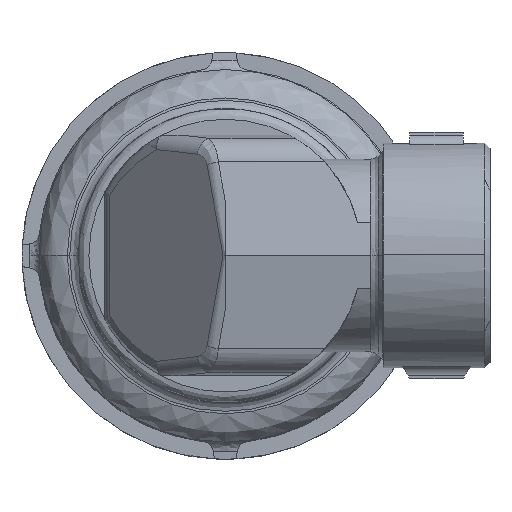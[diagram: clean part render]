
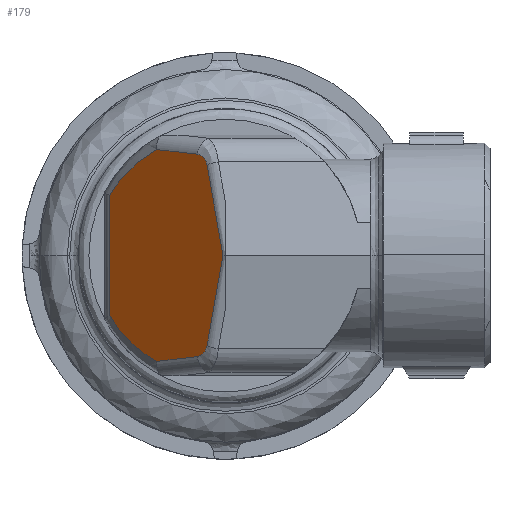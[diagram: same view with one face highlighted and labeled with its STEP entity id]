
A CAD part, top view. The second image highlights one B-rep face of the part: STEP entity #179.
In plain terms, the highlighted planar face has unit normal (-0.707, 0, 0.707).
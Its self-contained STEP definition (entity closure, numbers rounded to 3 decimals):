
#179=ADVANCED_FACE('',(#1642),#1641,.F.);
#1641=PLANE('',#3767);
#1642=FACE_OUTER_BOUND('',#3768,.T.);
#3764=CARTESIAN_POINT('',(1.695,-23.764,149.195));
#3765=DIRECTION('',(0.707,0.,-0.707));
#3766=DIRECTION('',(-0.707,0.,-0.707));
#3767=AXIS2_PLACEMENT_3D('',#3764,#3765,#3766);
#3768=EDGE_LOOP('',(#5210,#5211,#5212,#5213,#5214,#5215,#5216,#5217,#5218));
#5210=ORIENTED_EDGE('',*,*,#5699,.T.);
#5211=ORIENTED_EDGE('',*,*,#5953,.T.);
#5212=ORIENTED_EDGE('',*,*,#5703,.T.);
#5213=ORIENTED_EDGE('',*,*,#5773,.T.);
#5214=ORIENTED_EDGE('',*,*,#5959,.T.);
#5215=ORIENTED_EDGE('',*,*,#5961,.T.);
#5216=ORIENTED_EDGE('',*,*,#5955,.T.);
#5217=ORIENTED_EDGE('',*,*,#5709,.T.);
#5218=ORIENTED_EDGE('',*,*,#5983,.T.);
#5699=EDGE_CURVE('',#6816,#6809,#6817,.T.);
#5703=EDGE_CURVE('',#6843,#6844,#6845,.T.);
#5709=EDGE_CURVE('',#6885,#6878,#6886,.T.);
#5773=EDGE_CURVE('',#6844,#7313,#7320,.T.);
#5953=EDGE_CURVE('',#6809,#6843,#8511,.T.);
#5955=EDGE_CURVE('',#8524,#6885,#8525,.T.);
#5959=EDGE_CURVE('',#7313,#8543,#8550,.T.);
#5961=EDGE_CURVE('',#8543,#8524,#8562,.T.);
#5983=EDGE_CURVE('',#6878,#6816,#8698,.T.);
#6809=VERTEX_POINT('',#10208);
#6816=VERTEX_POINT('',#10221);
#6817=(BOUNDED_CURVE() B_SPLINE_CURVE(2,(#10222,#10223,#10224),.UNSPECIFIED.,.F.,.F.) B_SPLINE_CURVE_WITH_KNOTS((3,3),(-1.076,-0.522),.UNSPECIFIED.) CURVE() GEOMETRIC_REPRESENTATION_ITEM() RATIONAL_B_SPLINE_CURVE((1.,0.962,1.)) REPRESENTATION_ITEM('') );
#6843=VERTEX_POINT('',#10250);
#6844=VERTEX_POINT('',#10251);
#6845=(BOUNDED_CURVE() B_SPLINE_CURVE(2,(#10252,#10253,#10254),.UNSPECIFIED.,.F.,.F.) B_SPLINE_CURVE_WITH_KNOTS((3,3),(0.522,1.076),.UNSPECIFIED.) CURVE() GEOMETRIC_REPRESENTATION_ITEM() RATIONAL_B_SPLINE_CURVE((1.,0.962,1.)) REPRESENTATION_ITEM('') );
#6878=VERTEX_POINT('',#10293);
#6885=VERTEX_POINT('',#10312);
#6886=(BOUNDED_CURVE() B_SPLINE_CURVE(2,(#10313,#10314,#10315),.UNSPECIFIED.,.F.,.F.) B_SPLINE_CURVE_WITH_KNOTS((3,3),(0.175,1.292),.UNSPECIFIED.) CURVE() GEOMETRIC_REPRESENTATION_ITEM() RATIONAL_B_SPLINE_CURVE((1.,0.848,1.)) REPRESENTATION_ITEM('') );
#7313=VERTEX_POINT('',#10649);
#7320=LINE('',#10668,#10669);
#8511=LINE('',#11842,#11843);
#8524=VERTEX_POINT('',#11849);
#8525=LINE('',#11850,#11851);
#8543=VERTEX_POINT('',#11859);
#8550=(BOUNDED_CURVE() B_SPLINE_CURVE(2,(#11864,#11865,#11866),.UNSPECIFIED.,.F.,.F.) B_SPLINE_CURVE_WITH_KNOTS((3,3),(-1.292,-0.175),.UNSPECIFIED.) CURVE() GEOMETRIC_REPRESENTATION_ITEM() RATIONAL_B_SPLINE_CURVE((1.,0.848,1.)) REPRESENTATION_ITEM('') );
#8562=LINE('',#11870,#11871);
#8698=LINE('',#11997,#11998);
#10208=CARTESIAN_POINT('',(-21.621,11.225,125.879));
#10221=CARTESIAN_POINT('',(-12.802,19.803,134.698));
#10222=CARTESIAN_POINT('',(-12.802,19.803,134.698));
#10223=CARTESIAN_POINT('',(-18.431,16.767,129.069));
#10224=CARTESIAN_POINT('',(-21.621,11.225,125.879));
#10250=CARTESIAN_POINT('',(-21.621,-11.225,125.879));
#10251=CARTESIAN_POINT('',(-12.802,-19.803,134.698));
#10252=CARTESIAN_POINT('',(-21.621,-11.225,125.879));
#10253=CARTESIAN_POINT('',(-18.431,-16.767,129.069));
#10254=CARTESIAN_POINT('',(-12.802,-19.803,134.698));
#10293=CARTESIAN_POINT('',(-5.188,18.921,142.312));
#10312=CARTESIAN_POINT('',(-3.414,16.952,144.086));
#10313=CARTESIAN_POINT('',(-3.414,16.952,144.086));
#10314=CARTESIAN_POINT('',(-3.685,18.491,143.815));
#10315=CARTESIAN_POINT('',(-5.188,18.921,142.312));
#10649=CARTESIAN_POINT('',(-5.188,-18.921,142.312));
#10668=CARTESIAN_POINT('',(-12.802,-19.803,134.698));
#10669=VECTOR('',#10670,10.804);
#10670=DIRECTION('',(0.705,0.082,0.705));
#11842=CARTESIAN_POINT('',(-21.621,11.225,125.879));
#11843=VECTOR('',#11844,22.45);
#11844=DIRECTION('',(0.,-1.,0.));
#11849=CARTESIAN_POINT('',(-0.425,0.,147.075));
#11850=CARTESIAN_POINT('',(-0.425,0.,147.075));
#11851=VECTOR('',#11852,17.471);
#11852=DIRECTION('',(-0.171,0.97,-0.171));
#11859=CARTESIAN_POINT('',(-3.414,-16.952,144.086));
#11864=CARTESIAN_POINT('',(-5.188,-18.921,142.312));
#11865=CARTESIAN_POINT('',(-3.685,-18.491,143.815));
#11866=CARTESIAN_POINT('',(-3.414,-16.952,144.086));
#11870=CARTESIAN_POINT('',(-3.414,-16.952,144.086));
#11871=VECTOR('',#11872,17.471);
#11872=DIRECTION('',(0.171,0.97,0.171));
#11997=CARTESIAN_POINT('',(-5.188,18.921,142.312));
#11998=VECTOR('',#11999,10.804);
#11999=DIRECTION('',(-0.705,0.082,-0.705));
